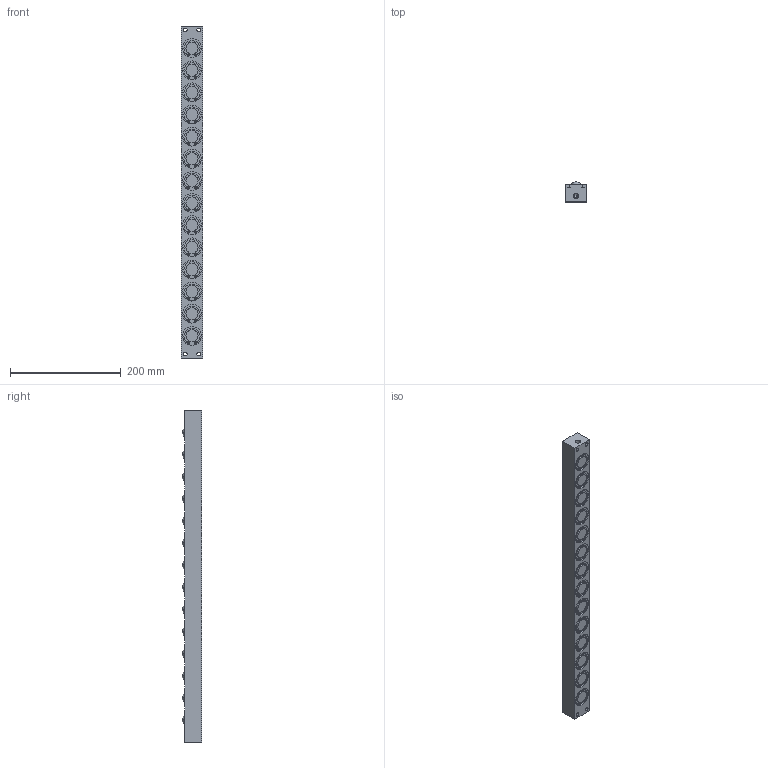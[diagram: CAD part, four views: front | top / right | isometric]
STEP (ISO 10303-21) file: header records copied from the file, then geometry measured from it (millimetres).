
FILE_DESCRIPTION (( 'STEP AP203' ), '1' );
FILE_NAME ('PVL30S-14.STEP', '2016-01-05T05:27:13', ( '' ), ( '' ), 'SwSTEP 2.0', 'SolidWorks 2013', '' );
FILE_SCHEMA (( 'CONFIG_CONTROL_DESIGN' ));
Length unit declared in the file: millimetre
Products named in the file (1): PVL30S-14
Bounding box: 38 x 36 x 600 mm (x, y, z)
Volume: 693876.5 mm3; surface area: 109261.8 mm2
Topology: 1 solids, 1 shells, 467 faces, 1098 edges, 735 vertices
Faces by surface type: cylinder 298, plane 137, sphere 28, cone 4
Entity records: 13871 total; most frequent: DIRECTION 2716, CARTESIAN_POINT 2299, ORIENTED_EDGE 2192, AXIS2_PLACEMENT_3D 1152, EDGE_CURVE 1096, VERTEX_POINT 735, CIRCLE 684, EDGE_LOOP 579
